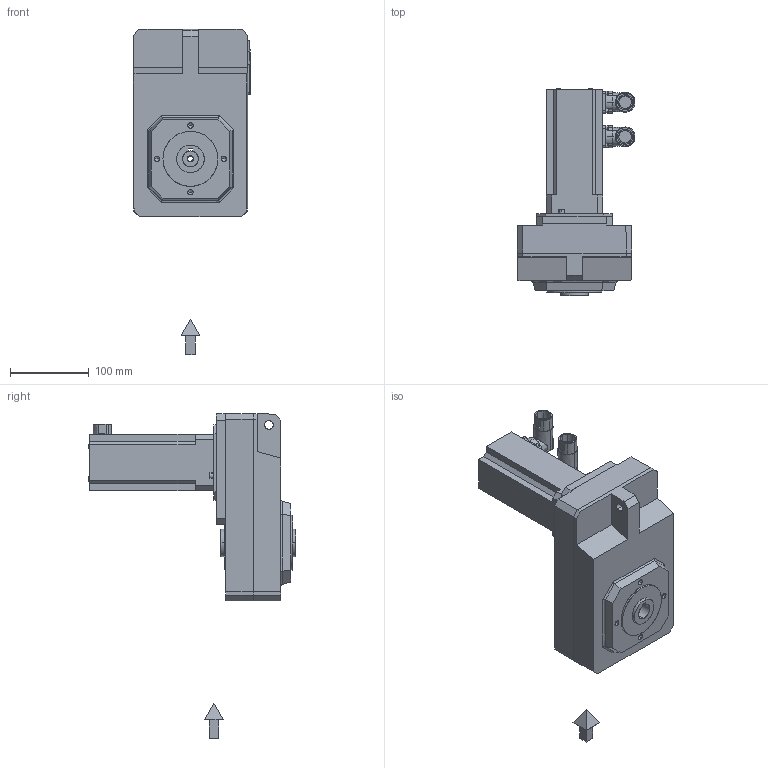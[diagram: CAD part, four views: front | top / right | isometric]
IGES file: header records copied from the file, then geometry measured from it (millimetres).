
Start section: ACIS data in IGES format
Global section: file name: Unknown; native system: ACIS; preprocessor: *IGES writer V5.2; author: unknown author; organization: unknown organization; date: 20041206.075818; units: millimetre
Bounding box: 150.11 x 263.77 x 413.61 mm (x, y, z)
Surface area: 204493.1 mm2 (no closed solid volume)
Topology: 0 solids, 0 shells, 554 faces, 3172 edges, 3140 vertices
Faces by surface type: revolution 277, extrusion 277
